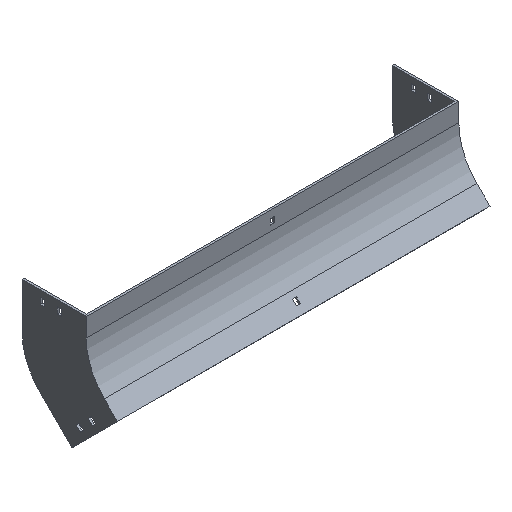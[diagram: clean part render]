
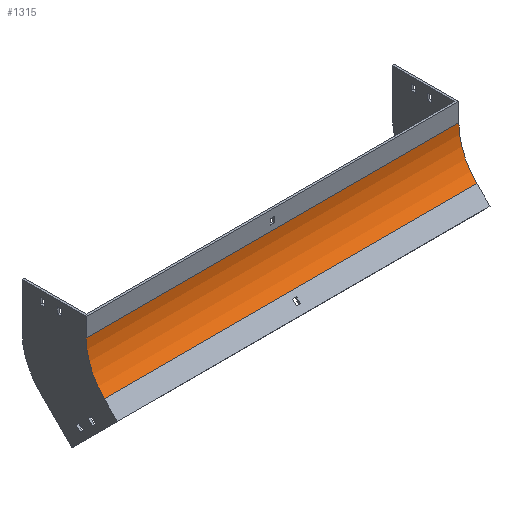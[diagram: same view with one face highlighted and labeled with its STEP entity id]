
A CAD part, isometric view. The second image highlights one B-rep face of the part: STEP entity #1315.
In plain terms, the highlighted cylindrical face has radius 100 mm (diameter 200 mm), a partial arc.
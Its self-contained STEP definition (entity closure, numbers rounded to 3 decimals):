
#20 = VECTOR ( 'NONE', #1678, 1000. ) ;
#43 = VERTEX_POINT ( 'NONE', #911 ) ;
#148 = EDGE_CURVE ( 'NONE', #536, #43, #843, .T. ) ;
#191 = EDGE_LOOP ( 'NONE', ( #1112, #1896, #1776, #1872 ) ) ;
#194 = LINE ( 'NONE', #1390, #20 ) ;
#207 = DIRECTION ( 'NONE',  ( 0., 0., 1. ) ) ;
#270 = DIRECTION ( 'NONE',  ( 0., 0., 1. ) ) ;
#279 = FACE_OUTER_BOUND ( 'NONE', #191, .T. ) ;
#350 = EDGE_CURVE ( 'NONE', #1054, #1636, #194, .T. ) ;
#412 = AXIS2_PLACEMENT_3D ( 'NONE', #1619, #730, #270 ) ;
#481 = CARTESIAN_POINT ( 'NONE',  ( -302., -100., -30. ) ) ;
#493 = CARTESIAN_POINT ( 'NONE',  ( 302., 0., -30. ) ) ;
#503 = DIRECTION ( 'NONE',  ( -1., 0., 0. ) ) ;
#529 = VECTOR ( 'NONE', #503, 1000. ) ;
#536 = VERTEX_POINT ( 'NONE', #995 ) ;
#573 = CYLINDRICAL_SURFACE ( 'NONE', #412, 100. ) ;
#626 = DIRECTION ( 'NONE',  ( -1., 0., 0. ) ) ;
#655 = CIRCLE ( 'NONE', #1535, 100. ) ;
#730 = DIRECTION ( 'NONE',  ( -1., 0., 0. ) ) ;
#779 = DIRECTION ( 'NONE',  ( 0., 0., 1. ) ) ;
#843 = LINE ( 'NONE', #493, #529 ) ;
#861 = CIRCLE ( 'NONE', #1515, 100. ) ;
#911 = CARTESIAN_POINT ( 'NONE',  ( -302., 0., -30. ) ) ;
#995 = CARTESIAN_POINT ( 'NONE',  ( 302., 0., -30. ) ) ;
#1054 = VERTEX_POINT ( 'NONE', #1859 ) ;
#1109 = EDGE_CURVE ( 'NONE', #536, #1054, #655, .T. ) ;
#1112 = ORIENTED_EDGE ( 'NONE', *, *, #1394, .T. ) ;
#1260 = DIRECTION ( 'NONE',  ( -1., 0., 0. ) ) ;
#1315 = ADVANCED_FACE ( 'NONE', ( #279 ), #573, .F. ) ;
#1390 = CARTESIAN_POINT ( 'NONE',  ( 302., -29.289, -100.711 ) ) ;
#1394 = EDGE_CURVE ( 'NONE', #43, #1636, #861, .T. ) ;
#1424 = CARTESIAN_POINT ( 'NONE',  ( 302., -100., -30. ) ) ;
#1515 = AXIS2_PLACEMENT_3D ( 'NONE', #481, #626, #779 ) ;
#1535 = AXIS2_PLACEMENT_3D ( 'NONE', #1424, #1260, #207 ) ;
#1616 = CARTESIAN_POINT ( 'NONE',  ( -302., -29.289, -100.711 ) ) ;
#1619 = CARTESIAN_POINT ( 'NONE',  ( 302., -100., -30. ) ) ;
#1636 = VERTEX_POINT ( 'NONE', #1616 ) ;
#1678 = DIRECTION ( 'NONE',  ( -1., 0., 0. ) ) ;
#1776 = ORIENTED_EDGE ( 'NONE', *, *, #1109, .F. ) ;
#1859 = CARTESIAN_POINT ( 'NONE',  ( 302., -29.289, -100.711 ) ) ;
#1872 = ORIENTED_EDGE ( 'NONE', *, *, #148, .T. ) ;
#1896 = ORIENTED_EDGE ( 'NONE', *, *, #350, .F. ) ;
